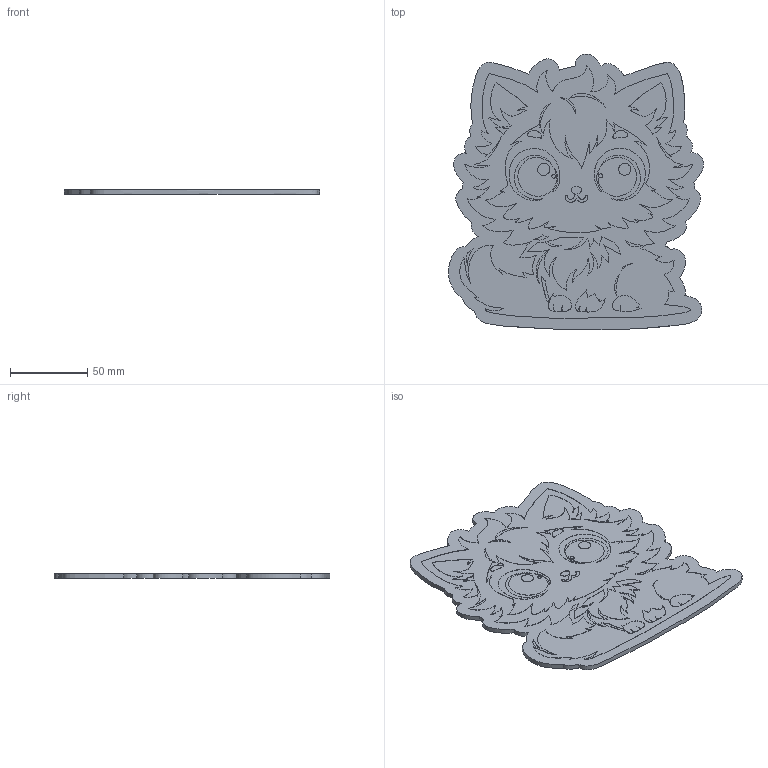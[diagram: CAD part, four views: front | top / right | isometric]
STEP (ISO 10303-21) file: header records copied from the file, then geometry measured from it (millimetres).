
FILE_DESCRIPTION(('STEP AP214'),'1');
FILE_NAME('3a.stp','2026-07-04T12:57:51',(' '),(' '),'Spatial InterOp 3D',' ',' ');
FILE_SCHEMA(('AUTOMOTIVE_DESIGN { 1 0 10303 214 1 1 1 1 }'));
Length unit declared in the file: metre
Products named in the file (20): 1783167546; 1783188324; 1783188398; 1783188400; 1783188401; 1783188402; 1783188403; 1783188405; 1783188406; 1783188409; 1783188410; 1783188413; 1783188414; 1783188415; 1783188416; 1783188417; 1783188418; 1783188419; 1783188420; 1
Bounding box: 165 x 178.31 x 3 mm (x, y, z)
Volume: 71478.6 mm3; surface area: 64216.7 mm2
Topology: 19 solids, 19 shells, 291 faces, 978 edges, 727 vertices
Faces by surface type: extrusion 246, plane 44, cylinder 1
Full cylindrical faces by diameter (mm): 2.4 x1
Entity records: 18101 total; most frequent: CARTESIAN_POINT 8231, ORIENTED_EDGE 1498, B_SPLINE_CURVE_WITH_KNOTS 950, EDGE_CURVE 749, DIRECTION 637, VERTEX_POINT 502, VECTOR 501, STYLED_ITEM 360
